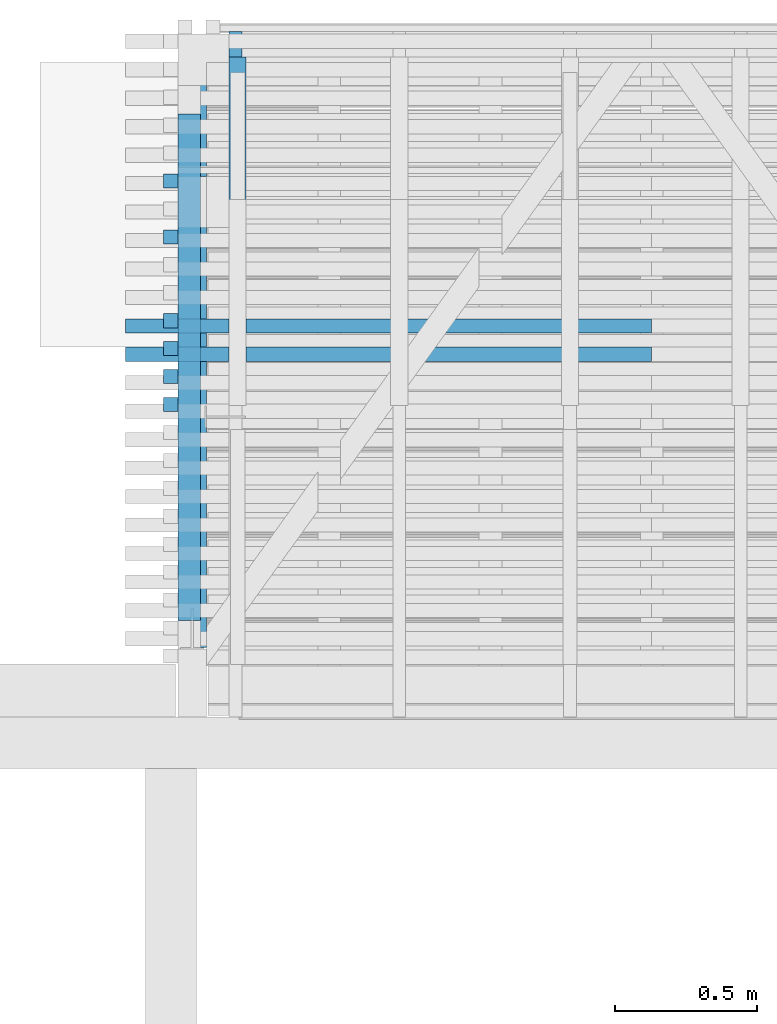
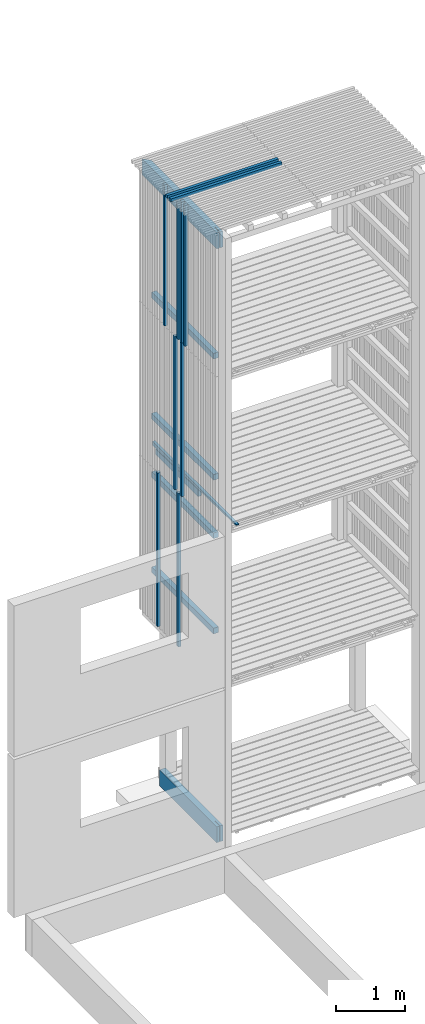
# One storey, part 10 of 182: 18 beams.
"""IFC2X3 building model written with IfcOpenShell, lengths in metres."""

from ifc_helpers import new_model, si_unit, frame, origin, place, context, project, spatial, faceted_brep, element, save


model = new_model("IFC2X3")

# Units and contexts
model_context = context("Model", 3, precision=1e-06, world=origin())
ifc_project = project(units=[si_unit("LENGTHUNIT", "METRE"), si_unit("PLANEANGLEUNIT", "RADIAN")], contexts=[model_context])

# Site, building, storey
site = spatial("IfcSite", under=ifc_project, CompositionType="ELEMENT")
building = spatial("IfcBuilding", under=site, CompositionType="ELEMENT")
storey = spatial("IfcBuildingStorey", under=building, Name="vs", CompositionType="ELEMENT", Elevation=-0.85)

# Beams
placement = place(None, origin())
beam_1_placement = place(placement, frame((3.516697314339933, 10.470077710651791, 5.384400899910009), z_axis=(0.0, 0.0, 1.0), x_axis=(0.0, 1.0, 0.0)))
element("IfcBeam", 1, at=beam_1_placement, inside=storey, Name="Calage", context=model_context, shape_type="Brep", body=[
    faceted_brep([(2.41000000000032, -0.022499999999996, -0.035599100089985), (0.0, -0.022499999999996, 0.012600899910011), (0.0, 0.022500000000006, 0.012600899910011), (2.41000000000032, 0.022500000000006, -0.035599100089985), (0.0, 0.022500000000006, 0.035599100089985), (0.0, 0.022500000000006, 0.012600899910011), (0.0, -0.022499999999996, 0.012600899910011), (0.0, -0.022499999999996, 0.035599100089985), (2.41000000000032, 0.022500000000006, -0.035599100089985), (0.0, 0.022500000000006, 0.012600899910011), (0.0, 0.022500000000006, 0.035599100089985), (2.41000000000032, 0.022500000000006, 0.035599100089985), (2.41000000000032, -0.022499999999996, 0.035599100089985), (0.0, -0.022499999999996, 0.035599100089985), (0.0, -0.022499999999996, 0.012600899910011), (2.41000000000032, -0.022499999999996, -0.035599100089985), (2.41000000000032, 0.022500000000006, 0.035599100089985), (0.0, 0.022500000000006, 0.035599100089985), (0.0, -0.022499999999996, 0.035599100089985), (2.41000000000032, -0.022499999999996, 0.035599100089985), (2.41000000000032, 0.022500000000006, -0.035599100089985), (2.41000000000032, 0.022500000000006, 0.035599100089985), (2.41000000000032, -0.022499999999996, 0.035599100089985), (2.41000000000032, -0.022499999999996, -0.035599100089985)], [[[0, 1, 2, 3]], [[4, 5, 6, 7]], [[8, 9, 10, 11]], [[12, 13, 14, 15]], [[16, 17, 18, 19]], [[20, 21, 22, 23]]]),
])
beam_2_placement = place(placement, frame((3.289197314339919, 12.35416861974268, 2.575000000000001), z_axis=(1.0, 0.0, 0.0), x_axis=(0.0, 0.0, 1.0)))
element("IfcBeam", 2, at=beam_2_placement, inside=storey, Name="Bardage", context=model_context, shape_type="Brep", body=[
    faceted_brep([(2.699961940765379, -0.024999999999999, 0.025000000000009), (2.699961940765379, -0.024999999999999, -0.025000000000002), (2.699961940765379, 0.025000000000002, -0.025000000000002), (2.699961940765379, 0.025000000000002, 0.025000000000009), (0.0, -0.024999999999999, 0.025000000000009), (2.699961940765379, -0.024999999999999, 0.025000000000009), (2.699961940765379, 0.025000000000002, 0.025000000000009), (0.0, 0.025000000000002, 0.025000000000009), (0.0, -0.024999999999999, 0.025000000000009), (0.0, 0.025000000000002, 0.025000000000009), (0.0, 0.025000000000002, -0.025000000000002), (0.0, -0.024999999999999, -0.025000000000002), (0.0, -0.024999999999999, 0.025000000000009), (0.0, -0.024999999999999, -0.025000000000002), (2.699961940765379, -0.024999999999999, -0.025000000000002), (2.699961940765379, -0.024999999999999, 0.025000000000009), (0.0, -0.024999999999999, -0.025000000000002), (0.0, 0.025000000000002, -0.025000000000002), (2.699961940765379, 0.025000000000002, -0.025000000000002), (2.699961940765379, -0.024999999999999, -0.025000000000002), (0.0, 0.025000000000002, -0.025000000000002), (0.0, 0.025000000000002, 0.025000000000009), (2.699961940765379, 0.025000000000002, 0.025000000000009), (2.699961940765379, 0.025000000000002, -0.025000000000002)], [[[0, 1, 2, 3]], [[4, 5, 6, 7]], [[8, 9, 10, 11]], [[12, 13, 14, 15]], [[16, 17, 18, 19]], [[20, 21, 22, 23]]]),
])
beam_3_placement = place(placement, frame((3.289197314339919, 11.666895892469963, 7.974999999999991), z_axis=(1.0, 0.0, 0.0), x_axis=(0.0, 0.0, 1.0)))
element("IfcBeam", 3, at=beam_3_placement, inside=storey, Name="Bardage", context=model_context, shape_type="Brep", body=[
    faceted_brep([(0.0, -0.024999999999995, 0.025000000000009), (0.0, 0.025000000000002, 0.025000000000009), (0.0, 0.025000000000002, -0.025000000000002), (0.0, -0.024999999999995, -0.025000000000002), (2.479999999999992, 0.025000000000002, -0.025000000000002), (2.479999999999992, 0.025000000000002, 0.025000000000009), (2.479999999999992, -0.024999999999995, 0.025000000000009), (2.479999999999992, -0.024999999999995, -0.025000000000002), (0.0, 0.025000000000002, 0.025000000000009), (0.0, -0.024999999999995, 0.025000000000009), (2.479999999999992, -0.024999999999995, 0.025000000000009), (2.479999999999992, 0.025000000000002, 0.025000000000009), (0.0, 0.025000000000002, -0.025000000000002), (0.0, 0.025000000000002, 0.025000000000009), (2.479999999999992, 0.025000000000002, 0.025000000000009), (2.479999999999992, 0.025000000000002, -0.025000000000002), (0.0, -0.024999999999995, -0.025000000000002), (0.0, 0.025000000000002, -0.025000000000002), (2.479999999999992, 0.025000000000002, -0.025000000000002), (2.479999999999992, -0.024999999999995, -0.025000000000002), (2.479999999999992, -0.024999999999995, 0.025000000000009), (0.0, -0.024999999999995, 0.025000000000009), (0.0, -0.024999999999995, -0.025000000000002), (2.479999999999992, -0.024999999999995, -0.025000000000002)], [[[0, 1, 2, 3]], [[4, 5, 6, 7]], [[8, 9, 10, 11]], [[12, 13, 14, 15]], [[16, 17, 18, 19]], [[20, 21, 22, 23]]]),
])
beam_4_placement = place(placement, frame((3.354197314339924, 10.810077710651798, 6.101249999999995), z_axis=(0.0, 0.0, 1.0), x_axis=(0.0, 1.0, 0.0)))
element("IfcBeam", 4, at=beam_4_placement, inside=storey, Name="Support bardage", context=model_context, shape_type="Brep", body=[
    faceted_brep([(1.779999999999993, 0.039999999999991, -0.05), (1.779999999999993, 0.039999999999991, 0.050000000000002), (1.779999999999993, -0.040000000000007, 0.050000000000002), (1.779999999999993, -0.040000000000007, -0.05), (1.779999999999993, -0.040000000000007, 0.050000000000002), (1.779999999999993, 0.039999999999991, 0.050000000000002), (-4e-15, 0.039999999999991, 0.050000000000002), (-4e-15, -0.040000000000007, 0.050000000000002), (-4e-15, 0.039999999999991, 0.050000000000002), (1.779999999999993, 0.039999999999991, 0.050000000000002), (1.779999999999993, 0.039999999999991, -0.05), (-4e-15, 0.039999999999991, -0.05), (1.779999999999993, -0.040000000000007, -0.05), (1.779999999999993, -0.040000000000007, 0.050000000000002), (-4e-15, -0.040000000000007, 0.050000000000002), (-4e-15, -0.040000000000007, -0.05), (-4e-15, 0.039999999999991, -0.05), (1.779999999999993, 0.039999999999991, -0.05), (1.779999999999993, -0.040000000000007, -0.05), (-4e-15, -0.040000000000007, -0.05), (-4e-15, 0.039999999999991, 0.050000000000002), (-4e-15, 0.039999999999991, -0.05), (-4e-15, -0.040000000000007, -0.05), (-4e-15, -0.040000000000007, 0.050000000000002)], [[[0, 1, 2, 3]], [[4, 5, 6, 7]], [[8, 9, 10, 11]], [[12, 13, 14, 15]], [[16, 17, 18, 19]], [[20, 21, 22, 23]]]),
])
beam_5_placement = place(placement, frame((3.354197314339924, 10.810077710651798, 5.074999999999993), z_axis=(0.0, 0.0, 1.0), x_axis=(0.0, 1.0, 0.0)))
element("IfcBeam", 5, at=beam_5_placement, inside=storey, Name="Support bardage", context=model_context, shape_type="Brep", body=[
    faceted_brep([(1.779999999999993, 0.039999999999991, -0.050000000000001), (1.779999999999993, 0.039999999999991, 0.050000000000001), (1.779999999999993, -0.040000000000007, 0.050000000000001), (1.779999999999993, -0.040000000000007, -0.050000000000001), (1.779999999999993, -0.040000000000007, 0.050000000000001), (1.779999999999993, 0.039999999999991, 0.050000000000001), (-4e-15, 0.039999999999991, 0.050000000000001), (-4e-15, -0.040000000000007, 0.050000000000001), (-4e-15, 0.039999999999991, 0.050000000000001), (1.779999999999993, 0.039999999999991, 0.050000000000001), (1.779999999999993, 0.039999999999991, -0.050000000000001), (-4e-15, 0.039999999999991, -0.050000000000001), (1.779999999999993, -0.040000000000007, -0.050000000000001), (1.779999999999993, -0.040000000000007, 0.050000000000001), (-4e-15, -0.040000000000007, 0.050000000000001), (-4e-15, -0.040000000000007, -0.050000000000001), (-4e-15, 0.039999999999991, -0.050000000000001), (1.779999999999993, 0.039999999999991, -0.050000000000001), (1.779999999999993, -0.040000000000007, -0.050000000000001), (-4e-15, -0.040000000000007, -0.050000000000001), (-4e-15, 0.039999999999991, 0.050000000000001), (-4e-15, 0.039999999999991, -0.050000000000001), (-4e-15, -0.040000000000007, -0.050000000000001), (-4e-15, -0.040000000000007, 0.050000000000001)], [[[0, 1, 2, 3]], [[4, 5, 6, 7]], [[8, 9, 10, 11]], [[12, 13, 14, 15]], [[16, 17, 18, 19]], [[20, 21, 22, 23]]]),
])
beam_6_placement = place(placement, frame((3.289197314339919, 11.568714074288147, 7.974999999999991), z_axis=(1.0, 0.0, 0.0), x_axis=(0.0, 0.0, 1.0)))
element("IfcBeam", 6, at=beam_6_placement, inside=storey, Name="Bardage", context=model_context, shape_type="Brep", body=[
    faceted_brep([(0.0, -0.024999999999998, 0.025000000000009), (0.0, 0.025000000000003, 0.025000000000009), (0.0, 0.025000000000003, -0.025000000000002), (0.0, -0.024999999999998, -0.025000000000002), (2.479999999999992, 0.025000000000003, -0.025000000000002), (2.479999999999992, 0.025000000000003, 0.025000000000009), (2.479999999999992, -0.024999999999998, 0.025000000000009), (2.479999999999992, -0.024999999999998, -0.025000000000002), (0.0, 0.025000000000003, 0.025000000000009), (0.0, -0.024999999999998, 0.025000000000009), (2.479999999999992, -0.024999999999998, 0.025000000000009), (2.479999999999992, 0.025000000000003, 0.025000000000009), (0.0, 0.025000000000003, -0.025000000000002), (0.0, 0.025000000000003, 0.025000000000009), (2.479999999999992, 0.025000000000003, 0.025000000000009), (2.479999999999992, 0.025000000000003, -0.025000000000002), (0.0, -0.024999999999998, -0.025000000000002), (0.0, 0.025000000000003, -0.025000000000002), (2.479999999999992, 0.025000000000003, -0.025000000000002), (2.479999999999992, -0.024999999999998, -0.025000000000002), (2.479999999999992, -0.024999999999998, 0.025000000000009), (0.0, -0.024999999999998, 0.025000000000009), (0.0, -0.024999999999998, -0.025000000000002), (2.479999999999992, -0.024999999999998, -0.025000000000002)], [[[0, 1, 2, 3]], [[4, 5, 6, 7]], [[8, 9, 10, 11]], [[12, 13, 14, 15]], [[16, 17, 18, 19]], [[20, 21, 22, 23]]]),
])
beam_7_placement = place(placement, frame((3.289197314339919, 12.157804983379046, 7.974999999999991), z_axis=(1.0, 0.0, 0.0), x_axis=(0.0, 0.0, 1.0)))
element("IfcBeam", 7, at=beam_7_placement, inside=storey, Name="Bardage", context=model_context, shape_type="Brep", body=[
    faceted_brep([(0.0, -0.024999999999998, 0.025000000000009), (0.0, 0.024999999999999, 0.025000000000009), (0.0, 0.024999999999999, -0.025000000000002), (0.0, -0.024999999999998, -0.025000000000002), (2.479999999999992, 0.024999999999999, -0.025000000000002), (2.479999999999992, 0.024999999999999, 0.025000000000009), (2.479999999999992, -0.024999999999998, 0.025000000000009), (2.479999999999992, -0.024999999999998, -0.025000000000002), (0.0, 0.024999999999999, 0.025000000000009), (0.0, -0.024999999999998, 0.025000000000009), (2.479999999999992, -0.024999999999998, 0.025000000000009), (2.479999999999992, 0.024999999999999, 0.025000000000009), (0.0, 0.024999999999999, -0.025000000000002), (0.0, 0.024999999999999, 0.025000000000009), (2.479999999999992, 0.024999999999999, 0.025000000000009), (2.479999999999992, 0.024999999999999, -0.025000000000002), (0.0, -0.024999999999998, -0.025000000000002), (0.0, 0.024999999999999, -0.025000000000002), (2.479999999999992, 0.024999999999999, -0.025000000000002), (2.479999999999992, -0.024999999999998, -0.025000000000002), (2.479999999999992, -0.024999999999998, 0.025000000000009), (0.0, -0.024999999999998, 0.025000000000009), (0.0, -0.024999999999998, -0.025000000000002), (2.479999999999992, -0.024999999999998, -0.025000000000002)], [[[0, 1, 2, 3]], [[4, 5, 6, 7]], [[8, 9, 10, 11]], [[12, 13, 14, 15]], [[16, 17, 18, 19]], [[20, 21, 22, 23]]]),
])
beam_8_placement = place(placement, frame((3.289197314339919, 11.765077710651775, 7.974999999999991), z_axis=(1.0, 0.0, 0.0), x_axis=(0.0, 1e-15, 1.0)))
element("IfcBeam", 8, at=beam_8_placement, inside=storey, Name="Bardage", context=model_context, shape_type="Brep", body=[
    faceted_brep([(0.0, -0.025000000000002, 0.025000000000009), (0.0, 0.024999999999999, 0.025000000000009), (0.0, 0.024999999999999, -0.025000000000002), (0.0, -0.025000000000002, -0.025000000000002), (2.479999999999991, 0.025000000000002, -0.025000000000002), (2.479999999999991, 0.025000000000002, 0.025000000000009), (2.479999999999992, -0.025000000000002, 0.025000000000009), (2.479999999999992, -0.025000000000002, -0.025000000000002), (0.0, 0.024999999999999, 0.025000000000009), (0.0, -0.025000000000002, 0.025000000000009), (2.479999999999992, -0.025000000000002, 0.025000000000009), (2.479999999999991, 0.025000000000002, 0.025000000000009), (0.0, 0.024999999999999, -0.025000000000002), (0.0, 0.024999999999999, 0.025000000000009), (2.479999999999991, 0.025000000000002, 0.025000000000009), (2.479999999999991, 0.025000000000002, -0.025000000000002), (0.0, -0.025000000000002, -0.025000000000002), (0.0, 0.024999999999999, -0.025000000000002), (2.479999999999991, 0.025000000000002, -0.025000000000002), (2.479999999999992, -0.025000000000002, -0.025000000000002), (2.479999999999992, -0.025000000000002, 0.025000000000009), (0.0, -0.025000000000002, 0.025000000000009), (0.0, -0.025000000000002, -0.025000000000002), (2.479999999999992, -0.025000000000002, -0.025000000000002)], [[[0, 1, 2, 3]], [[4, 5, 6, 7]], [[8, 9, 10, 11]], [[12, 13, 14, 15]], [[16, 17, 18, 19]], [[20, 21, 22, 23]]]),
])
beam_9_placement = place(placement, frame((3.289197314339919, 11.666895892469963, 5.274999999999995), z_axis=(1.0, 0.0, 0.0), x_axis=(0.0, 0.0, 1.0)))
element("IfcBeam", 9, at=beam_9_placement, inside=storey, Name="Bardage", context=model_context, shape_type="Brep", body=[
    faceted_brep([(2.699999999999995, 0.025000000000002, 0.025000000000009), (2.699999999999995, -0.024999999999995, 0.025000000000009), (2.699999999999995, -0.024999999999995, -0.025000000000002), (2.699999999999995, 0.025000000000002, -0.025000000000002), (1e-15, 0.025000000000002, 0.025000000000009), (2.699999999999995, 0.025000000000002, 0.025000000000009), (2.699999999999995, 0.025000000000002, -0.025000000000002), (1e-15, 0.025000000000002, -0.025000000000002), (1e-15, -0.024999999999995, 0.025000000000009), (1e-15, 0.025000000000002, 0.025000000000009), (1e-15, 0.025000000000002, -0.025000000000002), (1e-15, -0.024999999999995, -0.025000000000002), (1e-15, 0.025000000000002, 0.025000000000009), (1e-15, -0.024999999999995, 0.025000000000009), (2.699999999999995, -0.024999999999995, 0.025000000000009), (2.699999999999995, 0.025000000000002, 0.025000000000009), (1e-15, -0.024999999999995, 0.025000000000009), (1e-15, -0.024999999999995, -0.025000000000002), (2.699999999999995, -0.024999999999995, -0.025000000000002), (2.699999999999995, -0.024999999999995, 0.025000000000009), (1e-15, -0.024999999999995, -0.025000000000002), (1e-15, 0.025000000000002, -0.025000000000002), (2.699999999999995, 0.025000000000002, -0.025000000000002), (2.699999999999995, -0.024999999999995, -0.025000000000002)], [[[0, 1, 2, 3]], [[4, 5, 6, 7]], [[8, 9, 10, 11]], [[12, 13, 14, 15]], [[16, 17, 18, 19]], [[20, 21, 22, 23]]]),
])
beam_10_placement = place(placement, frame((3.364197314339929, 10.715077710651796, 10.314999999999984), z_axis=(0.0, 0.0, 1.0), x_axis=(0.0, 1.0, 0.0)))
element("IfcBeam", 10, at=beam_10_placement, inside=storey, Name="Sommier", context=model_context, shape_type="Brep", body=[
    faceted_brep([(0.0, -0.004000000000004, 0.140000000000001), (0.0, -0.049999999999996, 0.140000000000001), (2.054999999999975, -0.049999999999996, 0.140000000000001), (2.154999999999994, 0.049999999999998, 0.140000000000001), (0.0, 0.049999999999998, 0.140000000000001), (0.0, 0.003999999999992, 0.140000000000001), (0.137, 0.003999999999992, 0.140000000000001), (0.137, -0.004000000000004, 0.140000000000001), (2.054999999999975, -0.049999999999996, -0.140000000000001), (2.054999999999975, -0.049999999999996, 0.140000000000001), (0.0, -0.049999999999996, 0.140000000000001), (0.0, -0.049999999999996, -0.140000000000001), (2.054999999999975, -0.049999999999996, 0.140000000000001), (2.054999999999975, -0.049999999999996, -0.140000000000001), (2.154999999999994, 0.049999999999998, -0.140000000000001), (2.154999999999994, 0.049999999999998, 0.140000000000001), (0.0, 0.049999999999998, 0.140000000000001), (2.154999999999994, 0.049999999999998, 0.140000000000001), (2.154999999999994, 0.049999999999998, -0.140000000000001), (0.0, 0.049999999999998, -0.140000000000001), (0.0, 0.003999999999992, -0.140000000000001), (0.0, 0.003999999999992, 0.140000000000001), (0.0, 0.049999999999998, 0.140000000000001), (0.0, 0.049999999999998, -0.140000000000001), (0.0, -0.049999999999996, 0.140000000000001), (0.0, -0.004000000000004, 0.140000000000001), (0.0, -0.004000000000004, -0.140000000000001), (0.0, -0.049999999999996, -0.140000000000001), (0.0, 0.049999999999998, -0.140000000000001), (2.154999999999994, 0.049999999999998, -0.140000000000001), (2.054999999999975, -0.049999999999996, -0.140000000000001), (0.0, -0.049999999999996, -0.140000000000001), (0.0, -0.004000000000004, -0.140000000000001), (0.137, -0.004000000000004, -0.140000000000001), (0.137, 0.003999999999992, -0.140000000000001), (0.0, 0.003999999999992, -0.140000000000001), (0.137, 0.003999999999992, -0.140000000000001), (0.137, -0.004000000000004, -0.140000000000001), (0.137, -0.004000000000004, 0.140000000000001), (0.137, 0.003999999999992, 0.140000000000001), (0.0, -0.004000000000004, 0.140000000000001), (0.137, -0.004000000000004, 0.140000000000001), (0.137, -0.004000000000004, -0.140000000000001), (0.0, -0.004000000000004, -0.140000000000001), (0.137, 0.003999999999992, 0.140000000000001), (0.0, 0.003999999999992, 0.140000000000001), (0.0, 0.003999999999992, -0.140000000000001), (0.137, 0.003999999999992, -0.140000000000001)], [[[0, 1, 2, 3, 4, 5, 6, 7]], [[8, 9, 10, 11]], [[12, 13, 14, 15]], [[16, 17, 18, 19]], [[20, 21, 22, 23]], [[24, 25, 26, 27]], [[28, 29, 30, 31, 32, 33, 34, 35]], [[36, 37, 38, 39]], [[40, 41, 42, 43]], [[44, 45, 46, 47]]]),
])
beam_11_placement = place(placement, frame((3.289197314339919, 11.765077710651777, 2.575000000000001), z_axis=(1.0, 0.0, 0.0), x_axis=(0.0, 0.0, 1.0)))
element("IfcBeam", 11, at=beam_11_placement, inside=storey, Name="Bardage", context=model_context, shape_type="Brep", body=[
    faceted_brep([(2.699961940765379, -0.025000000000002, 0.025000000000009), (2.699961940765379, -0.025000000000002, -0.025000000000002), (2.699961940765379, 0.025000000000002, -0.025000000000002), (2.699961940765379, 0.025000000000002, 0.025000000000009), (0.0, -0.025000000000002, 0.025000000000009), (2.699961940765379, -0.025000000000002, 0.025000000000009), (2.699961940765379, 0.025000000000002, 0.025000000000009), (0.0, 0.025000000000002, 0.025000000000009), (0.0, -0.025000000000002, 0.025000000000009), (0.0, 0.025000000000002, 0.025000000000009), (0.0, 0.025000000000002, -0.025000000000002), (0.0, -0.025000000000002, -0.025000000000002), (0.0, -0.025000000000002, 0.025000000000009), (0.0, -0.025000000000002, -0.025000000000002), (2.699961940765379, -0.025000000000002, -0.025000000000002), (2.699961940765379, -0.025000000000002, 0.025000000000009), (0.0, -0.025000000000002, -0.025000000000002), (0.0, 0.025000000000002, -0.025000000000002), (2.699961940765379, 0.025000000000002, -0.025000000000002), (2.699961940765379, -0.025000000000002, -0.025000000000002), (0.0, 0.025000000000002, -0.025000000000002), (0.0, 0.025000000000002, 0.025000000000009), (2.699961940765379, 0.025000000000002, 0.025000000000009), (2.699961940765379, 0.025000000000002, -0.025000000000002)], [[[0, 1, 2, 3]], [[4, 5, 6, 7]], [[8, 9, 10, 11]], [[12, 13, 14, 15]], [[16, 17, 18, 19]], [[20, 21, 22, 23]]]),
])
beam_12_placement = place(placement, frame((3.289197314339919, 11.863259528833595, 5.274999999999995), z_axis=(1.0, 0.0, 0.0), x_axis=(0.0, 0.0, 1.0)))
element("IfcBeam", 12, at=beam_12_placement, inside=storey, Name="Bardage", context=model_context, shape_type="Brep", body=[
    faceted_brep([(2.699999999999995, 0.025000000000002, 0.025000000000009), (2.699999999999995, -0.024999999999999, 0.025000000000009), (2.699999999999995, -0.024999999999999, -0.025000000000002), (2.699999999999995, 0.025000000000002, -0.025000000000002), (1e-15, 0.025000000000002, 0.025000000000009), (2.699999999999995, 0.025000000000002, 0.025000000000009), (2.699999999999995, 0.025000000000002, -0.025000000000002), (1e-15, 0.025000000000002, -0.025000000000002), (1e-15, -0.024999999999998, 0.025000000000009), (1e-15, 0.025000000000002, 0.025000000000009), (1e-15, 0.025000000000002, -0.025000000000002), (1e-15, -0.024999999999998, -0.025000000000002), (1e-15, 0.025000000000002, 0.025000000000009), (1e-15, -0.024999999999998, 0.025000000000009), (2.699999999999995, -0.024999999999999, 0.025000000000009), (2.699999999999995, 0.025000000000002, 0.025000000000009), (1e-15, -0.024999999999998, 0.025000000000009), (1e-15, -0.024999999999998, -0.025000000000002), (2.699999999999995, -0.024999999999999, -0.025000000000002), (2.699999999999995, -0.024999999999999, 0.025000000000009), (1e-15, -0.024999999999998, -0.025000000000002), (1e-15, 0.025000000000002, -0.025000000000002), (2.699999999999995, 0.025000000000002, -0.025000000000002), (2.699999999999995, -0.024999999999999, -0.025000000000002)], [[[0, 1, 2, 3]], [[4, 5, 6, 7]], [[8, 9, 10, 11]], [[12, 13, 14, 15]], [[16, 17, 18, 19]], [[20, 21, 22, 23]]]),
])
beam_13_placement = place(placement, frame((3.524197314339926, 11.565077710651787, 5.304249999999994), z_axis=(0.0, 0.0, 1.0), x_axis=(0.0, 1.0, 0.0)))
element("IfcBeam", 13, at=beam_13_placement, inside=storey, Name="Solive", context=model_context, shape_type="Brep", body=[
    faceted_brep([(0.0, -0.030000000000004, -0.061849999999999), (1.225000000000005, -0.030000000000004, -0.061849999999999), (1.225000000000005, -0.030000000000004, 0.03735), (0.0, -0.030000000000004, 0.06185), (0.0, 0.029999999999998, -0.061849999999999), (1.225000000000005, 0.029999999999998, -0.061849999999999), (1.225000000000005, -0.030000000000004, -0.061849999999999), (0.0, -0.030000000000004, -0.061849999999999), (0.0, 0.029999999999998, 0.061850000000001), (0.0, 0.029999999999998, -0.061849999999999), (0.0, -0.030000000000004, -0.061849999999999), (0.0, -0.030000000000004, 0.06185), (1.225000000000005, 0.029999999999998, -0.061849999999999), (0.0, 0.029999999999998, -0.061849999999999), (0.0, 0.029999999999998, 0.061850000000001), (1.225000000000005, 0.029999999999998, 0.03735), (1.225000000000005, -0.030000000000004, 0.03735), (1.225000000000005, -0.030000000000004, -0.061849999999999), (1.225000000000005, 0.029999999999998, -0.061849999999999), (1.225000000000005, 0.029999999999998, 0.03735), (0.0, -0.030000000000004, 0.06185), (1.225000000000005, -0.030000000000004, 0.03735), (1.225000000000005, 0.029999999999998, 0.03735), (0.0, 0.029999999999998, 0.061850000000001)], [[[0, 1, 2, 3]], [[4, 5, 6, 7]], [[8, 9, 10, 11]], [[12, 13, 14, 15]], [[16, 17, 18, 19]], [[20, 21, 22, 23]]]),
])
beam_14_placement = place(placement, frame((4.979197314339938, 11.845077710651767, 10.47999999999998), z_axis=(0.0, 0.0, 1.0), x_axis=(-1.0, -2e-15, 0.0)))
element("IfcBeam", 14, at=beam_14_placement, inside=storey, Name="Bardage", context=model_context, shape_type="Brep", body=[
    faceted_brep([(1.850000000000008, -0.025000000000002, -0.024999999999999), (1.850000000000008, -0.025000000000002, 0.025000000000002), (-1e-15, -0.024999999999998, 0.025000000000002), (-1e-15, -0.024999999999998, -0.024999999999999), (1.850000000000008, -0.025000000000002, 0.025000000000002), (1.850000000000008, -0.025000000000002, -0.024999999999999), (1.850000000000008, 0.024999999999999, -0.024999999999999), (1.850000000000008, 0.024999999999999, 0.025000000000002), (1.850000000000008, 0.024999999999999, -0.024999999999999), (1.850000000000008, -0.025000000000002, -0.024999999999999), (-1e-15, -0.024999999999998, -0.024999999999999), (-1e-15, 0.025000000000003, -0.024999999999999), (1.850000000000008, 0.024999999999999, 0.025000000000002), (1.850000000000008, 0.024999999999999, -0.024999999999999), (-1e-15, 0.025000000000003, -0.024999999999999), (-1e-15, 0.025000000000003, 0.025000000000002), (-1e-15, -0.024999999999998, 0.025000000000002), (1.850000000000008, -0.025000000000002, 0.025000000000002), (1.850000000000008, 0.024999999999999, 0.025000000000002), (-1e-15, 0.025000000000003, 0.025000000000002), (-1e-15, -0.024999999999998, -0.024999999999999), (-1e-15, -0.024999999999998, 0.025000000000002), (-1e-15, 0.025000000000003, 0.025000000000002), (-1e-15, 0.025000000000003, -0.024999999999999)], [[[0, 1, 2, 3]], [[4, 5, 6, 7]], [[8, 9, 10, 11]], [[12, 13, 14, 15]], [[16, 17, 18, 19]], [[20, 21, 22, 23]]]),
])
beam_15_placement = place(placement, frame((3.364197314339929, 10.715077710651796, -0.119999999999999), z_axis=(0.0, 0.0, 1.0), x_axis=(0.0, 1.0, 0.0)))
element("IfcBeam", 15, at=beam_15_placement, inside=storey, Name="Sommier", context=model_context, shape_type="Brep", body=[
    faceted_brep([(0.771999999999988, -0.045000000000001, 0.051399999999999), (0.847999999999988, -0.045000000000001, 0.051399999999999), (0.847999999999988, -0.049999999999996, 0.051399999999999), (0.771999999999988, -0.049999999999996, 0.051399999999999), (0.847999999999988, -0.045000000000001, -0.123600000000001), (0.847999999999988, -0.049999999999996, -0.123600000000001), (0.847999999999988, -0.049999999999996, 0.051399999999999), (0.847999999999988, -0.045000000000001, 0.051399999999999), (0.771999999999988, -0.049999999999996, -0.123600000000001), (0.771999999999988, -0.045000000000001, -0.123600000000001), (0.771999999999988, -0.045000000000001, 0.051399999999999), (0.771999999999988, -0.049999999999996, 0.051399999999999), (0.847999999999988, -0.049999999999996, -0.123600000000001), (0.847999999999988, -0.045000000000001, -0.123600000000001), (0.771999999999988, -0.045000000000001, -0.123600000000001), (0.771999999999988, -0.049999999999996, -0.123600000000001), (1.654999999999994, 0.049999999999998, 0.14), (1.654999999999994, -0.049999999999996, 0.14), (1.654999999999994, -0.049999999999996, -0.14), (1.654999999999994, 0.049999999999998, -0.14), (0.137, -0.00399999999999, 0.14), (0.0, -0.00399999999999, 0.14), (0.0, -0.049999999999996, 0.14), (1.654999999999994, -0.049999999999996, 0.14), (1.654999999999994, 0.049999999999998, 0.14), (0.0, 0.049999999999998, 0.14), (0.0, 0.004000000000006, 0.14), (0.137, 0.004000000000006, 0.14), (0.0, -0.049999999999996, -0.14), (1.654999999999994, -0.049999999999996, -0.14), (1.654999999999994, -0.049999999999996, 0.14), (0.0, -0.049999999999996, 0.14), (0.771999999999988, -0.049999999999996, 0.051399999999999), (0.847999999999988, -0.049999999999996, 0.051399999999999), (0.847999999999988, -0.049999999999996, -0.123600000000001), (0.771999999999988, -0.049999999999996, -0.123600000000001), (0.771999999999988, -0.045000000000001, 0.051399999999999), (0.771999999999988, -0.045000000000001, -0.123600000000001), (0.847999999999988, -0.045000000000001, -0.123600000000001), (0.847999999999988, -0.045000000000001, 0.051399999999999), (0.0, 0.049999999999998, 0.14), (1.654999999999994, 0.049999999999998, 0.14), (1.654999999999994, 0.049999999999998, -0.14), (0.0, 0.049999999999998, -0.14), (0.0, 0.004000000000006, -0.14), (0.0, 0.004000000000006, 0.14), (0.0, 0.049999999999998, 0.14), (0.0, 0.049999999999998, -0.14), (0.0, -0.049999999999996, 0.14), (0.0, -0.00399999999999, 0.14), (0.0, -0.00399999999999, -0.14), (0.0, -0.049999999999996, -0.14), (0.0, 0.004000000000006, -0.14), (0.0, 0.049999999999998, -0.14), (1.654999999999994, 0.049999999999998, -0.14), (1.654999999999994, -0.049999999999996, -0.14), (0.0, -0.049999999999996, -0.14), (0.0, -0.00399999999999, -0.14), (0.137, -0.00399999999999, -0.14), (0.137, 0.004000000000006, -0.14), (0.137, 0.004000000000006, -0.14), (0.137, -0.00399999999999, -0.14), (0.137, -0.00399999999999, 0.14), (0.137, 0.004000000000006, 0.14), (0.0, -0.00399999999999, 0.14), (0.137, -0.00399999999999, 0.14), (0.137, -0.00399999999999, -0.14), (0.0, -0.00399999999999, -0.14), (0.137, 0.004000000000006, 0.14), (0.0, 0.004000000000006, 0.14), (0.0, 0.004000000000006, -0.14), (0.137, 0.004000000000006, -0.14)], [[[0, 1, 2, 3]], [[4, 5, 6, 7]], [[8, 9, 10, 11]], [[12, 13, 14, 15]], [[16, 17, 18, 19]], [[20, 21, 22, 23, 24, 25, 26, 27]], [[28, 29, 30, 31], [32, 33, 34, 35]], [[36, 37, 38, 39]], [[40, 41, 42, 43]], [[44, 45, 46, 47]], [[48, 49, 50, 51]], [[52, 53, 54, 55, 56, 57, 58, 59]], [[60, 61, 62, 63]], [[64, 65, 66, 67]], [[68, 69, 70, 71]]]),
])
beam_16_placement = place(placement, frame((3.354197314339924, 10.810077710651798, 3.401250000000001), z_axis=(0.0, 0.0, 1.0), x_axis=(0.0, 1.0, 0.0)))
element("IfcBeam", 16, at=beam_16_placement, inside=storey, Name="Support bardage", context=model_context, shape_type="Brep", body=[
    faceted_brep([(1.779999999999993, 0.039999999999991, -0.050000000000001), (1.779999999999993, 0.039999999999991, 0.05), (1.779999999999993, -0.040000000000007, 0.05), (1.779999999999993, -0.040000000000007, -0.050000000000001), (1.779999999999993, -0.040000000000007, 0.05), (1.779999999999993, 0.039999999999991, 0.05), (-4e-15, 0.039999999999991, 0.05), (-4e-15, -0.040000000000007, 0.05), (-4e-15, 0.039999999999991, 0.05), (1.779999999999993, 0.039999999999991, 0.05), (1.779999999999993, 0.039999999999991, -0.050000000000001), (-4e-15, 0.039999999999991, -0.050000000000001), (1.779999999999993, -0.040000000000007, -0.050000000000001), (1.779999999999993, -0.040000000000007, 0.05), (-4e-15, -0.040000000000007, 0.05), (-4e-15, -0.040000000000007, -0.050000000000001), (-4e-15, 0.039999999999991, -0.050000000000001), (1.779999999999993, 0.039999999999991, -0.050000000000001), (1.779999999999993, -0.040000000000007, -0.050000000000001), (-4e-15, -0.040000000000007, -0.050000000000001), (-4e-15, 0.039999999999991, 0.05), (-4e-15, 0.039999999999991, -0.050000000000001), (-4e-15, -0.040000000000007, -0.050000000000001), (-4e-15, -0.040000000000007, 0.05)], [[[0, 1, 2, 3]], [[4, 5, 6, 7]], [[8, 9, 10, 11]], [[12, 13, 14, 15]], [[16, 17, 18, 19]], [[20, 21, 22, 23]]]),
])
beam_17_placement = place(placement, frame((3.354197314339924, 10.810077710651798, 8.229999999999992), z_axis=(0.0, 0.0, 1.0), x_axis=(0.0, 1.0, 0.0)))
element("IfcBeam", 17, at=beam_17_placement, inside=storey, Name="Support bardage", context=model_context, shape_type="Brep", body=[
    faceted_brep([(1.779999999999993, 0.039999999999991, -0.05), (1.779999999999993, 0.039999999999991, 0.050000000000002), (1.779999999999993, -0.040000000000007, 0.050000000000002), (1.779999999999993, -0.040000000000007, -0.05), (1.779999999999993, -0.040000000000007, 0.050000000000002), (1.779999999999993, 0.039999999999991, 0.050000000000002), (-4e-15, 0.039999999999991, 0.050000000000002), (-4e-15, -0.040000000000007, 0.050000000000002), (-4e-15, 0.039999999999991, 0.050000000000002), (1.779999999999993, 0.039999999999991, 0.050000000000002), (1.779999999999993, 0.039999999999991, -0.05), (-4e-15, 0.039999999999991, -0.05), (1.779999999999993, -0.040000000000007, -0.05), (1.779999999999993, -0.040000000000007, 0.050000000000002), (-4e-15, -0.040000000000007, 0.050000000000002), (-4e-15, -0.040000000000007, -0.05), (-4e-15, 0.039999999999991, -0.05), (1.779999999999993, 0.039999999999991, -0.05), (1.779999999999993, -0.040000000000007, -0.05), (-4e-15, -0.040000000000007, -0.05), (-4e-15, 0.039999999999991, 0.050000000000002), (-4e-15, 0.039999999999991, -0.05), (-4e-15, -0.040000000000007, -0.05), (-4e-15, -0.040000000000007, 0.050000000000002)], [[[0, 1, 2, 3]], [[4, 5, 6, 7]], [[8, 9, 10, 11]], [[12, 13, 14, 15]], [[16, 17, 18, 19]], [[20, 21, 22, 23]]]),
])
beam_18_placement = place(placement, frame((4.979197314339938, 11.745077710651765, 10.47999999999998), z_axis=(0.0, 0.0, 1.0), x_axis=(-1.0, 0.0, 0.0)))
element("IfcBeam", 18, at=beam_18_placement, inside=storey, Name="Bardage", context=model_context, shape_type="Brep", body=[
    faceted_brep([(1.850000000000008, -0.024999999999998, -0.024999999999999), (1.850000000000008, -0.024999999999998, 0.025000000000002), (-1e-15, -0.024999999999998, 0.025000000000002), (-1e-15, -0.024999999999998, -0.024999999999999), (1.850000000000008, -0.024999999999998, 0.025000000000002), (1.850000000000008, -0.024999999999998, -0.024999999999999), (1.850000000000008, 0.024999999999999, -0.024999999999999), (1.850000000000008, 0.024999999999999, 0.025000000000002), (1.850000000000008, 0.024999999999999, -0.024999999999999), (1.850000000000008, -0.024999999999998, -0.024999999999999), (-1e-15, -0.024999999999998, -0.024999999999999), (-1e-15, 0.024999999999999, -0.024999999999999), (1.850000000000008, 0.024999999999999, 0.025000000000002), (1.850000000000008, 0.024999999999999, -0.024999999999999), (-1e-15, 0.024999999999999, -0.024999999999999), (-1e-15, 0.024999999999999, 0.025000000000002), (-1e-15, -0.024999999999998, 0.025000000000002), (1.850000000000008, -0.024999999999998, 0.025000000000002), (1.850000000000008, 0.024999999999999, 0.025000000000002), (-1e-15, 0.024999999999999, 0.025000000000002), (-1e-15, -0.024999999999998, -0.024999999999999), (-1e-15, -0.024999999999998, 0.025000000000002), (-1e-15, 0.024999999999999, 0.025000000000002), (-1e-15, 0.024999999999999, -0.024999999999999)], [[[0, 1, 2, 3]], [[4, 5, 6, 7]], [[8, 9, 10, 11]], [[12, 13, 14, 15]], [[16, 17, 18, 19]], [[20, 21, 22, 23]]]),
])

save(model, "model.ifc")
